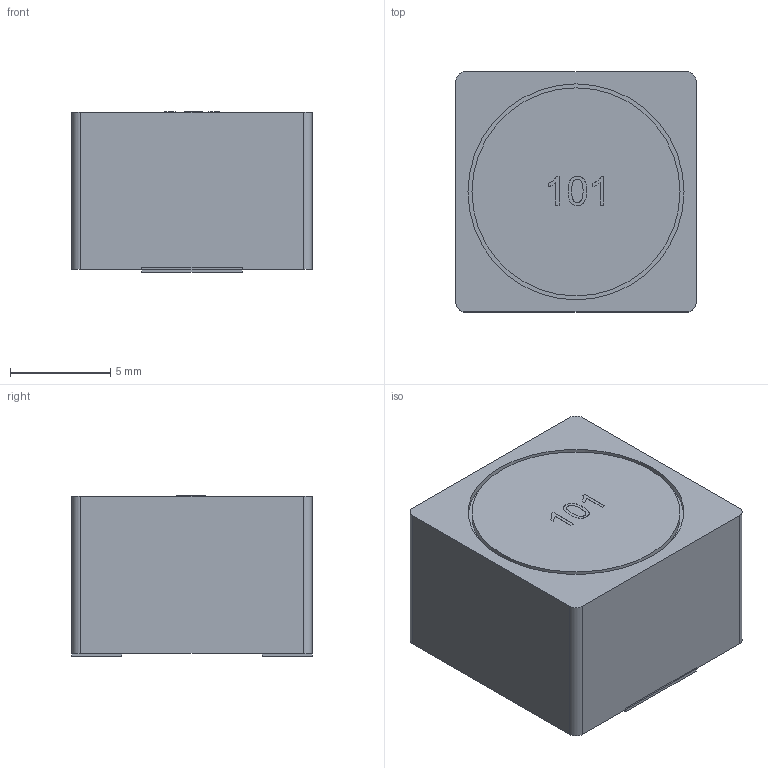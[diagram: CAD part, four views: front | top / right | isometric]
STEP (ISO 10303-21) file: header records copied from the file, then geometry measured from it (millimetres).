
FILE_DESCRIPTION(('Open CASCADE Model'),'2;1');
FILE_NAME('Open CASCADE Shape Model','2026-10-09T23:01:24',('Author'),( 'Open CASCADE'),'Open CASCADE STEP processor 7.9','Open CASCADE 7.9' ,'Unknown');
FILE_SCHEMA(('AUTOMOTIVE_DESIGN { 1 0 10303 214 1 1 1 1 }'));
Length unit declared in the file: millimetre
Products named in the file (6): Sumida_CDRH127_LD_101; shield; core; terminal0; terminal1; mark_4
Assembly tree (5 placements, depth 2):
  Sumida_CDRH127_LD_101
    shield
    core
    terminal0
    terminal1
    mark_4
Bounding box: 12 x 12 x 8.01 mm (x, y, z)
Volume: 1132.5 mm3; surface area: 907.4 mm2
Topology: 7 solids, 7 shells, 71 faces, 168 edges, 112 vertices
Faces by surface type: plane 37, extrusion 28, cylinder 6
Full cylindrical faces by diameter (mm): 10.4 x1, 10.8 x1
Entity records: 4419 total; most frequent: CARTESIAN_POINT 1003, DIRECTION 525, VECTOR 396, LINE 368, ORIENTED_EDGE 336, PCURVE 336, DEFINITIONAL_REPRESENTATION 336, EDGE_CURVE 168
